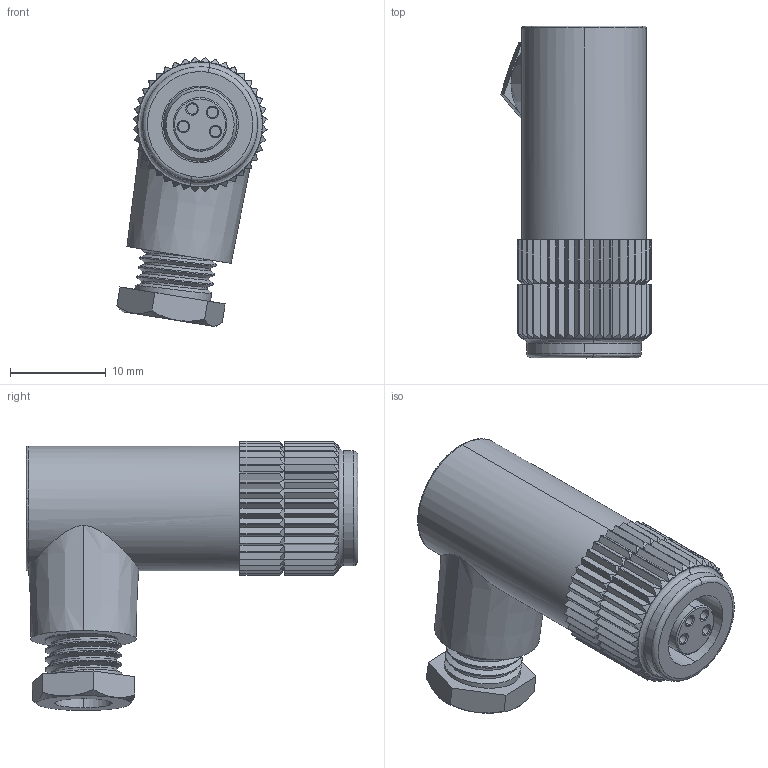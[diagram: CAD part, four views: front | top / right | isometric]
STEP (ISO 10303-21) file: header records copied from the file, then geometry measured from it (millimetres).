
FILE_DESCRIPTION (( 'STEP AP203' ), '1' );
FILE_NAME ('63F083.STEP', '2023-06-24T02:11:14', ( '' ), ( '' ), 'SwSTEP 2.0', 'SolidWorks 2016', '' );
FILE_SCHEMA (( 'CONFIG_CONTROL_DESIGN' ));
Length unit declared in the file: millimetre
Products named in the file (1): 63F083
Bounding box: 15.65 x 34.6 x 28.06 mm (x, y, z)
Volume: 5472.2 mm3; surface area: 3194.9 mm2
Topology: 1 solids, 2 shells, 462 faces, 1152 edges, 707 vertices
Faces by surface type: plane 265, cylinder 124, cone 56, bspline 15, torus 2
Entity records: 16347 total; most frequent: CARTESIAN_POINT 5679, ORIENTED_EDGE 2304, DIRECTION 2098, EDGE_CURVE 1152, AXIS2_PLACEMENT_3D 772, VERTEX_POINT 707, LINE 554, VECTOR 554
